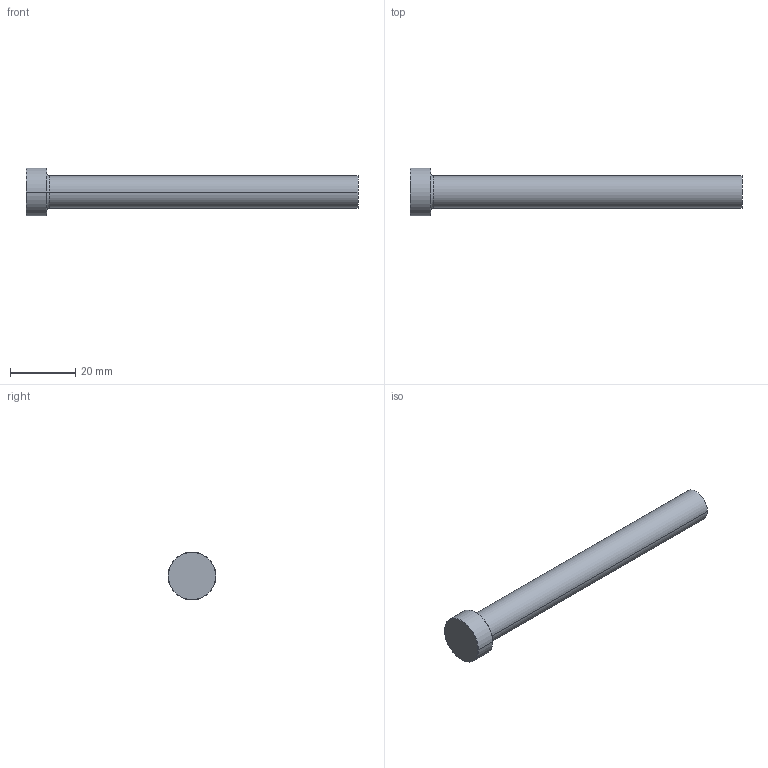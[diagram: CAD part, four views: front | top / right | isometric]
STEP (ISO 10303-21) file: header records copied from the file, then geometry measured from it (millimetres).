
FILE_DESCRIPTION (( 'STEP AP214' ), '1' );
FILE_NAME ('P26-4.STEP', '2020-03-12T10:01:57', ( '' ), ( '' ), 'SwSTEP 2.0', 'SolidWorks 2018', '' );
FILE_SCHEMA (( 'AUTOMOTIVE_DESIGN' ));
Length unit declared in the file: inch
Products named in the file (1): P26-4
Bounding box: 101.6 x 14.68 x 14.68 mm (x, y, z)
Volume: 8432.1 mm3; surface area: 3582.9 mm2
Topology: 1 solids, 1 shells, 13 faces, 24 edges, 14 vertices
Faces by surface type: cone 4, cylinder 4, plane 3, torus 2
Entity records: 366 total; most frequent: DIRECTION 68, CARTESIAN_POINT 52, ORIENTED_EDGE 48, AXIS2_PLACEMENT_3D 30, EDGE_CURVE 24, CIRCLE 16, EDGE_LOOP 14, VERTEX_POINT 14
